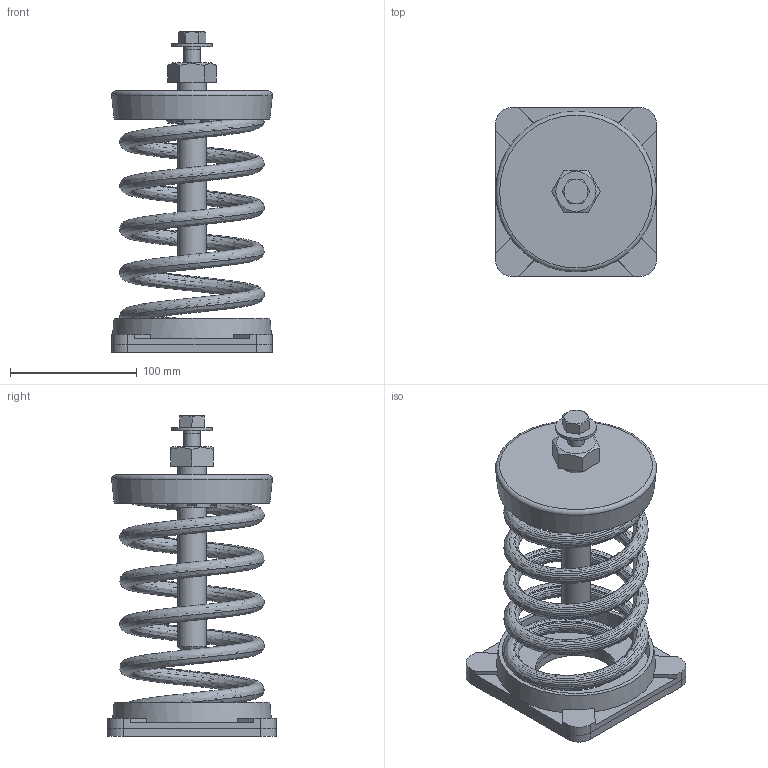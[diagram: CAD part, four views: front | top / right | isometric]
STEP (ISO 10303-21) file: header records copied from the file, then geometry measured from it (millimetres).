
FILE_DESCRIPTION(/* description */ (''),/* implementation_level */ '2;1');
FILE_NAME(/* name */ 'C:\001_Work\Designs\SLF ASSEMBLIES\SLF-131.stp',/* time_stamp */ '2016-01-10T15:35:39-05:00',/* author */ ('rramoutar'),/* organization */ ('Mason Industries Inc.'),/* preprocessor_version */ 'ST-DEVELOPER v15.6',/* originating_system */ 'Autodesk Inventor 2015',/* authorisation */ '');
FILE_SCHEMA (('CONFIG_CONTROL_DESIGN'));
Length unit declared in the file: inch
Products named in the file (1): SLF-131
Bounding box: 127.02 x 133.35 x 253.09 mm (x, y, z)
Volume: 434114 mm3; surface area: 258771.4 mm2
Topology: 7 solids, 7 shells, 150 faces, 365 edges, 238 vertices
Faces by surface type: plane 87, cylinder 25, bspline 22, cone 14, torus 2
Full cylindrical faces by diameter (mm): 9.525 x4, 12.7 x2, 13.487 x1, 19.05 x1, 19.447 x1, 22.225 x1, 31.75 x1, 63.5 x2, 116.681 x2
Entity records: 12869 total; most frequent: CARTESIAN_POINT 9456, ORIENTED_EDGE 666, DIRECTION 598, EDGE_CURVE 333, VERTEX_POINT 231, AXIS2_PLACEMENT_3D 222, EDGE_LOOP 194, STYLED_ITEM 157
